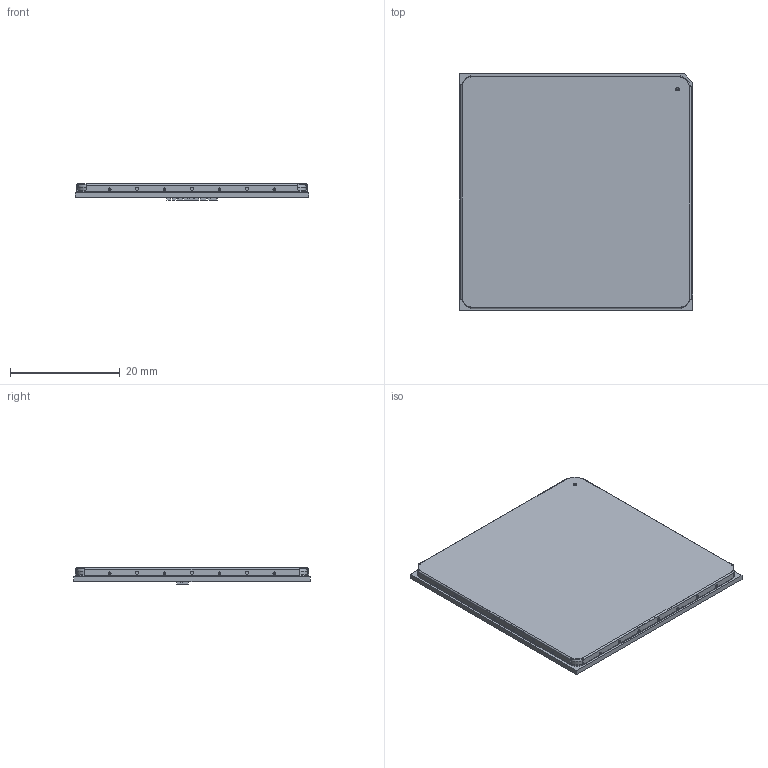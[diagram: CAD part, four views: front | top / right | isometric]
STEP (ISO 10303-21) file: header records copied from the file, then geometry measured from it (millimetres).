
FILE_DESCRIPTION((''),'2;1');
FILE_NAME('QCS6490_SOM_LGA_ASM','2024-12-23T17:41:09',('kevinsm.chang'),(''),'CREO PARAMETRIC BY PTC INC, 2021284','CREO PARAMETRIC BY PTC INC, 2021284','');
FILE_SCHEMA(('CONFIG_CONTROL_DESIGN'));
Length unit declared in the file: millimetre
Products named in the file (20): QFN38-0_35-3X4H0_7; SC4-0_65X1_05H0_5; LGA591-43X42_5-C6490G_SOM; BGA229-0_496-6X5_3H0_9-WCN6750; LGA6-1_1X0_7H0_5-MXDLN14TP; BGA219-0_495-6X5_01H0_6-SDR735; BGA143-0_4-5_16X4_82H0_57-PM735; BGA36-0_35-2_13X2_13H0_55; BGA254-0_5-11_5X13H1_1-H9HQ; BGA110-0_495-3_51X4_4H0_55-PM72; BGA1287-0_495-14X12H0_91-QCM649; BGA120-0_4-4_9X4H0_57-PM3725; COMPONENTS_ASM; C6490-12H12G_SOMB-V03-2023082_1_ASM; C6490-12H12G_SOMB-V03-20230822_ASM; QCS6490_SOM_SHIELDIN_2_2; QCS6490_SOM_SHIELDING_CASE_MP_1; QCS6490_SOM_SHIELDING_0424_ASM__ASM; QCS6490_SOM_SHIELDING_MP_0429_ASM; QCS6490_SOM_LGA_ASM
Assembly tree (32 placements, depth 5):
  QCS6490_SOM_LGA_ASM
    C6490-12H12G_SOMB-V03-20230822_ASM
      C6490-12H12G_SOMB-V03-2023082_1_ASM
        COMPONENTS_ASM
          QFN38-0_35-3X4H0_7
          SC4-0_65X1_05H0_5  x14
          LGA591-43X42_5-C6490G_SOM
          BGA229-0_496-6X5_3H0_9-WCN6750
          LGA6-1_1X0_7H0_5-MXDLN14TP
          BGA219-0_495-6X5_01H0_6-SDR735
          BGA143-0_4-5_16X4_82H0_57-PM735
          BGA36-0_35-2_13X2_13H0_55
          BGA254-0_5-11_5X13H1_1-H9HQ
          BGA110-0_495-3_51X4_4H0_55-PM72
          BGA1287-0_495-14X12H0_91-QCM649
          BGA120-0_4-4_9X4H0_57-PM3725
    QCS6490_SOM_SHIELDING_MP_0429_ASM
      QCS6490_SOM_SHIELDING_0424_ASM__ASM
        QCS6490_SOM_SHIELDIN_2_2
        QCS6490_SOM_SHIELDING_CASE_MP_1
Bounding box: 42.5 x 43 x 2.95 mm (x, y, z)
Volume: 2570.7 mm3; surface area: 10208.6 mm2
Topology: 27 solids, 27 shells, 560 faces, 1506 edges, 950 vertices
Faces by surface type: plane 309, cylinder 129, sphere 68, torus 54
Entity records: 16013 total; most frequent: DIRECTION 2936, CARTESIAN_POINT 2837, ORIENTED_EDGE 2564, EDGE_CURVE 1282, AXIS2_PLACEMENT_3D 1124, VERTEX_POINT 846, VECTOR 688, LINE 688
